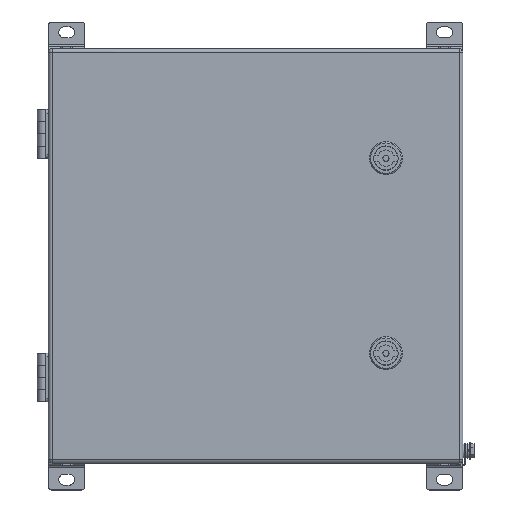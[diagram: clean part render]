
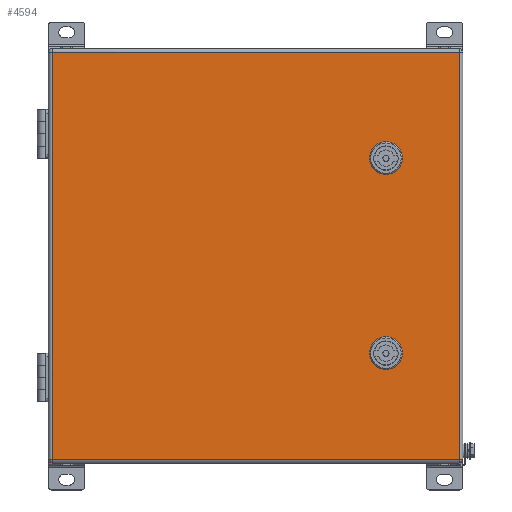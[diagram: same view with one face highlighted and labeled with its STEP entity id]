
A CAD part, top view. The second image highlights one B-rep face of the part: STEP entity #4594.
In plain terms, the highlighted planar face has unit normal (0, 0, 1).
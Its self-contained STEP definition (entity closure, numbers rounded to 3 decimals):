
#3155=CARTESIAN_POINT('',(111.604,-69.9,150.));
#3156=VERTEX_POINT('',#3155);
#3163=CARTESIAN_POINT('',(102.396,-69.9,150.));
#3164=VERTEX_POINT('',#3163);
#3165=CARTESIAN_POINT('',(102.396,-69.9,150.));
#3166=DIRECTION('',(1.0,0.0,0.0));
#3167=VECTOR('',#3166,9.209);
#3168=LINE('',#3165,#3167);
#3169=EDGE_CURVE('',#3164,#3156,#3168,.T.);
#3195=CARTESIAN_POINT('',(96.9,-75.396,150.));
#3196=VERTEX_POINT('',#3195);
#3197=CARTESIAN_POINT('',(107.0,-80.,150.));
#3198=DIRECTION('',(0.0,0.0,-1.0));
#3199=DIRECTION('',(1.0,0.0,0.0));
#3200=AXIS2_PLACEMENT_3D('',#3197,#3198,#3199);
#3201=CIRCLE('',#3200,11.1);
#3202=EDGE_CURVE('',#3196,#3164,#3201,.T.);
#3227=CARTESIAN_POINT('',(96.9,-84.604,150.));
#3228=VERTEX_POINT('',#3227);
#3229=CARTESIAN_POINT('',(96.9,-84.604,150.));
#3230=DIRECTION('',(0.0,1.0,0.0));
#3231=VECTOR('',#3230,9.209);
#3232=LINE('',#3229,#3231);
#3233=EDGE_CURVE('',#3228,#3196,#3232,.T.);
#3259=CARTESIAN_POINT('',(102.396,-90.1,150.));
#3260=VERTEX_POINT('',#3259);
#3261=CARTESIAN_POINT('',(107.0,-80.,150.));
#3262=DIRECTION('',(0.0,0.0,-1.0));
#3263=DIRECTION('',(1.0,0.0,0.0));
#3264=AXIS2_PLACEMENT_3D('',#3261,#3262,#3263);
#3265=CIRCLE('',#3264,11.1);
#3266=EDGE_CURVE('',#3260,#3228,#3265,.T.);
#3291=CARTESIAN_POINT('',(111.604,-90.1,150.));
#3292=VERTEX_POINT('',#3291);
#3293=CARTESIAN_POINT('',(111.604,-90.1,150.));
#3294=DIRECTION('',(-1.0,0.0,0.0));
#3295=VECTOR('',#3294,9.209);
#3296=LINE('',#3293,#3295);
#3297=EDGE_CURVE('',#3292,#3260,#3296,.T.);
#3323=CARTESIAN_POINT('',(117.1,-84.604,150.));
#3324=VERTEX_POINT('',#3323);
#3325=CARTESIAN_POINT('',(107.0,-80.,150.));
#3326=DIRECTION('',(0.0,0.0,-1.0));
#3327=DIRECTION('',(1.0,0.0,0.0));
#3328=AXIS2_PLACEMENT_3D('',#3325,#3326,#3327);
#3329=CIRCLE('',#3328,11.1);
#3330=EDGE_CURVE('',#3324,#3292,#3329,.T.);
#3355=CARTESIAN_POINT('',(117.1,-75.396,150.));
#3356=VERTEX_POINT('',#3355);
#3357=CARTESIAN_POINT('',(117.1,-75.396,150.));
#3358=DIRECTION('',(0.0,-1.0,0.0));
#3359=VECTOR('',#3358,9.209);
#3360=LINE('',#3357,#3359);
#3361=EDGE_CURVE('',#3356,#3324,#3360,.T.);
#3385=CARTESIAN_POINT('',(107.0,-80.,150.));
#3386=DIRECTION('',(0.0,0.0,-1.0));
#3387=DIRECTION('',(1.0,0.0,0.0));
#3388=AXIS2_PLACEMENT_3D('',#3385,#3386,#3387);
#3389=CIRCLE('',#3388,11.1);
#3390=EDGE_CURVE('',#3156,#3356,#3389,.T.);
#3412=CARTESIAN_POINT('',(117.1,84.604,150.));
#3413=VERTEX_POINT('',#3412);
#3420=CARTESIAN_POINT('',(111.604,90.1,150.));
#3421=VERTEX_POINT('',#3420);
#3422=CARTESIAN_POINT('',(107.0,80.,150.));
#3423=DIRECTION('',(0.0,0.0,-1.0));
#3424=DIRECTION('',(1.0,0.0,0.0));
#3425=AXIS2_PLACEMENT_3D('',#3422,#3423,#3424);
#3426=CIRCLE('',#3425,11.1);
#3427=EDGE_CURVE('',#3421,#3413,#3426,.T.);
#3452=CARTESIAN_POINT('',(102.396,90.1,150.));
#3453=VERTEX_POINT('',#3452);
#3454=CARTESIAN_POINT('',(102.396,90.1,150.));
#3455=DIRECTION('',(1.0,0.0,0.0));
#3456=VECTOR('',#3455,9.209);
#3457=LINE('',#3454,#3456);
#3458=EDGE_CURVE('',#3453,#3421,#3457,.T.);
#3484=CARTESIAN_POINT('',(96.9,84.604,150.));
#3485=VERTEX_POINT('',#3484);
#3486=CARTESIAN_POINT('',(107.0,80.,150.));
#3487=DIRECTION('',(0.0,0.0,-1.0));
#3488=DIRECTION('',(1.0,0.0,0.0));
#3489=AXIS2_PLACEMENT_3D('',#3486,#3487,#3488);
#3490=CIRCLE('',#3489,11.1);
#3491=EDGE_CURVE('',#3485,#3453,#3490,.T.);
#3516=CARTESIAN_POINT('',(96.9,75.396,150.));
#3517=VERTEX_POINT('',#3516);
#3518=CARTESIAN_POINT('',(96.9,75.396,150.));
#3519=DIRECTION('',(0.0,1.0,0.0));
#3520=VECTOR('',#3519,9.209);
#3521=LINE('',#3518,#3520);
#3522=EDGE_CURVE('',#3517,#3485,#3521,.T.);
#3548=CARTESIAN_POINT('',(102.396,69.9,150.));
#3549=VERTEX_POINT('',#3548);
#3550=CARTESIAN_POINT('',(107.0,80.,150.));
#3551=DIRECTION('',(0.0,0.0,-1.0));
#3552=DIRECTION('',(1.0,0.0,0.0));
#3553=AXIS2_PLACEMENT_3D('',#3550,#3551,#3552);
#3554=CIRCLE('',#3553,11.1);
#3555=EDGE_CURVE('',#3549,#3517,#3554,.T.);
#3580=CARTESIAN_POINT('',(111.604,69.9,150.));
#3581=VERTEX_POINT('',#3580);
#3582=CARTESIAN_POINT('',(111.604,69.9,150.));
#3583=DIRECTION('',(-1.0,0.0,0.0));
#3584=VECTOR('',#3583,9.209);
#3585=LINE('',#3582,#3584);
#3586=EDGE_CURVE('',#3581,#3549,#3585,.T.);
#3612=CARTESIAN_POINT('',(117.1,75.396,150.));
#3613=VERTEX_POINT('',#3612);
#3614=CARTESIAN_POINT('',(107.0,80.,150.));
#3615=DIRECTION('',(0.0,0.0,-1.0));
#3616=DIRECTION('',(1.0,0.0,0.0));
#3617=AXIS2_PLACEMENT_3D('',#3614,#3615,#3616);
#3618=CIRCLE('',#3617,11.1);
#3619=EDGE_CURVE('',#3613,#3581,#3618,.T.);
#3642=CARTESIAN_POINT('',(117.1,84.604,150.0));
#3643=DIRECTION('',(0.0,-1.0,0.0));
#3644=VECTOR('',#3643,9.209);
#3645=LINE('',#3642,#3644);
#3646=EDGE_CURVE('',#3413,#3613,#3645,.T.);
#4136=CARTESIAN_POINT('',(167.0,-167.0,150.));
#4137=VERTEX_POINT('',#4136);
#4203=CARTESIAN_POINT('',(167.0,167.0,150.));
#4204=VERTEX_POINT('',#4203);
#4270=CARTESIAN_POINT('',(-167.0,-167.0,150.));
#4271=VERTEX_POINT('',#4270);
#4343=CARTESIAN_POINT('',(167.0,-167.0,150.));
#4344=DIRECTION('',(-1.0,0.0,0.0));
#4345=VECTOR('',#4344,334.0);
#4346=LINE('',#4343,#4345);
#4347=EDGE_CURVE('',#4137,#4271,#4346,.T.);
#4359=CARTESIAN_POINT('',(-167.0,167.0,150.));
#4360=VERTEX_POINT('',#4359);
#4432=CARTESIAN_POINT('',(-167.0,-167.0,150.));
#4433=DIRECTION('',(0.0,1.0,0.0));
#4434=VECTOR('',#4433,334.0);
#4435=LINE('',#4432,#4434);
#4436=EDGE_CURVE('',#4271,#4360,#4435,.T.);
#4454=CARTESIAN_POINT('',(-167.0,167.0,150.));
#4455=DIRECTION('',(1.0,0.0,0.0));
#4456=VECTOR('',#4455,334.0);
#4457=LINE('',#4454,#4456);
#4458=EDGE_CURVE('',#4360,#4204,#4457,.T.);
#4476=CARTESIAN_POINT('',(167.0,167.0,150.));
#4477=DIRECTION('',(0.0,-1.0,0.0));
#4478=VECTOR('',#4477,334.0);
#4479=LINE('',#4476,#4478);
#4480=EDGE_CURVE('',#4204,#4137,#4479,.T.);
#4563=CARTESIAN_POINT('',(0.,0.,150.));
#4564=DIRECTION('',(0.0,0.0,1.0));
#4565=DIRECTION('',(1.0,0.0,0.0));
#4566=AXIS2_PLACEMENT_3D('',#4563,#4564,#4565);
#4567=PLANE('',#4566);
#4568=ORIENTED_EDGE('',*,*,#4347,.F.);
#4569=ORIENTED_EDGE('',*,*,#4480,.F.);
#4570=ORIENTED_EDGE('',*,*,#4458,.F.);
#4571=ORIENTED_EDGE('',*,*,#4436,.F.);
#4572=EDGE_LOOP('',(#4568,#4569,#4570,#4571));
#4573=FACE_OUTER_BOUND('',#4572,.T.);
#4574=ORIENTED_EDGE('',*,*,#3297,.T.);
#4575=ORIENTED_EDGE('',*,*,#3266,.T.);
#4576=ORIENTED_EDGE('',*,*,#3233,.T.);
#4577=ORIENTED_EDGE('',*,*,#3202,.T.);
#4578=ORIENTED_EDGE('',*,*,#3169,.T.);
#4579=ORIENTED_EDGE('',*,*,#3390,.T.);
#4580=ORIENTED_EDGE('',*,*,#3361,.T.);
#4581=ORIENTED_EDGE('',*,*,#3330,.T.);
#4582=EDGE_LOOP('',(#4574,#4575,#4576,#4577,#4578,#4579,#4580,#4581));
#4583=FACE_BOUND('',#4582,.T.);
#4584=ORIENTED_EDGE('',*,*,#3555,.T.);
#4585=ORIENTED_EDGE('',*,*,#3522,.T.);
#4586=ORIENTED_EDGE('',*,*,#3491,.T.);
#4587=ORIENTED_EDGE('',*,*,#3458,.T.);
#4588=ORIENTED_EDGE('',*,*,#3427,.T.);
#4589=ORIENTED_EDGE('',*,*,#3646,.T.);
#4590=ORIENTED_EDGE('',*,*,#3619,.T.);
#4591=ORIENTED_EDGE('',*,*,#3586,.T.);
#4592=EDGE_LOOP('',(#4584,#4585,#4586,#4587,#4588,#4589,#4590,#4591));
#4593=FACE_BOUND('',#4592,.T.);
#4594=ADVANCED_FACE('',(#4573,#4583,#4593),#4567,.T.);
